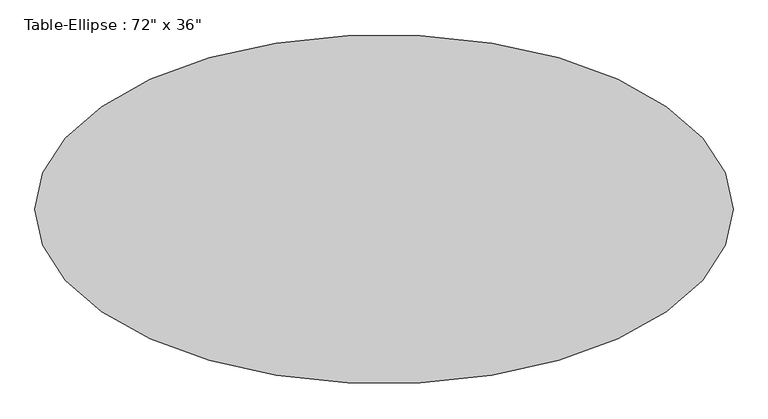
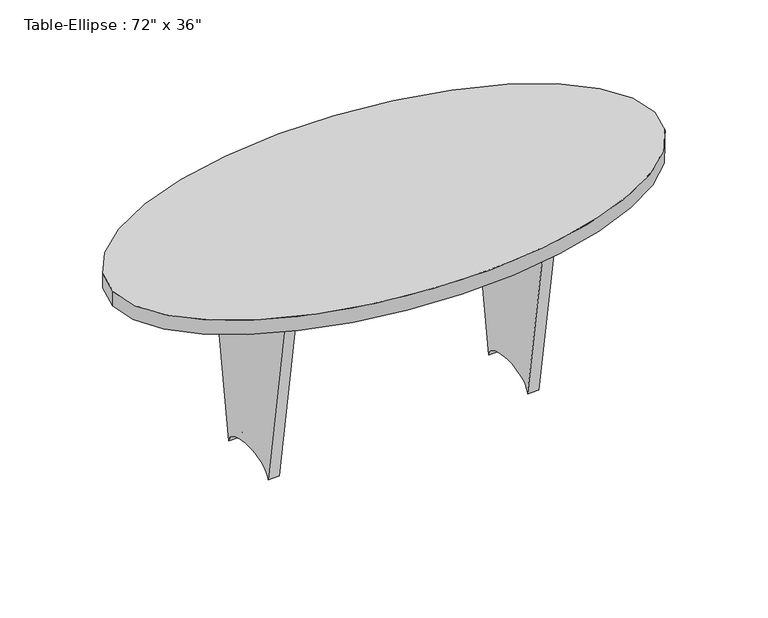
"""IFC4 building model written with IfcOpenShell, lengths in millimetres: furniture geometry."""

import ifcopenshell
import ifcopenshell.guid

model = None  # the IFC model being written
_history = None  # IfcOwnerHistory: only IFC2X3 demands one
_inside = {}  # id of a spatial element -> (the spatial element, [elements in it])
_under = {}  # id of a project, library or spatial element -> (it, [spatial elements below it])
_declared = {}  # id of a project -> (the project, [libraries it declares])
_typed = {}  # id of a type object -> (the type object, [elements of that type])
_made_of = {}  # id of a material, layer set ... -> (it, [elements and type objects made of it])


def new_model(schema):
    """Start an empty IFC model of exactly this schema.

    Asked for "IFC4X3", IfcOpenShell would pick the latest addendum, in which some entities
    have other attributes; the version numbers below select the first issue.
    IFC2X3 requires an IfcOwnerHistory on every rooted entity: one is made here for all.
    """
    global model, _history
    if schema == "IFC4X3":
        model = ifcopenshell.file(schema_version=(4, 3, 0, 0))
    else:
        model = ifcopenshell.file(schema=schema)
    _inside.clear()
    _under.clear()
    _declared.clear()
    _typed.clear()
    _made_of.clear()
    _history = None
    if model.schema == "IFC2X3":
        org = make("IfcOrganization", Name="unknown")
        user = make(
            "IfcPersonAndOrganization",
            ThePerson=make("IfcPerson", FamilyName="unknown"),
            TheOrganization=org,
        )
        app = make(
            "IfcApplication",
            ApplicationDeveloper=org,
            Version="unknown",
            ApplicationFullName="unknown",
            ApplicationIdentifier="unknown",
        )
        _history = make(
            "IfcOwnerHistory",
            OwningUser=user,
            OwningApplication=app,
            ChangeAction="ADDED",
            CreationDate=0,
        )
    return model


def make(cls, **values):
    """One entity of the class cls with the attributes given. An attribute that is None is left unset."""
    return model.create_entity(
        cls, **{name: value for name, value in values.items() if value is not None}
    )


def rooted(cls, **values):
    """An entity with a GlobalId (a new one), such as an element, a storey or a relation."""
    return make(cls, GlobalId=ifcopenshell.guid.new(), OwnerHistory=_history, **values)


def si_unit(unit_type, name, prefix=None):
    """IfcSIUnit, for example si_unit("LENGTHUNIT", "METRE", prefix="MILLI")."""
    return make("IfcSIUnit", UnitType=unit_type, Prefix=prefix, Name=name)


def assignment(units):
    """IfcUnitAssignment: the units of a project."""
    return None if units is None else make("IfcUnitAssignment", Units=units)


def point(xyz):
    """IfcCartesianPoint."""
    return None if xyz is None else make("IfcCartesianPoint", Coordinates=xyz)


def direction(xyz):
    """IfcDirection."""
    return None if xyz is None else make("IfcDirection", DirectionRatios=xyz)


def frame(location, z_axis=None, x_axis=None):
    """IfcAxis2Placement3D, a coordinate frame: its origin and axes. An axis left out is left unset."""
    return make(
        "IfcAxis2Placement3D",
        Location=point(location),
        Axis=direction(z_axis),
        RefDirection=direction(x_axis),
    )


def origin():
    """The frame at (0, 0, 0) with its axes left unset."""
    return frame((0.0, 0.0, 0.0))


def place(relative_to, where):
    """IfcLocalPlacement: puts the frame where relative to a parent placement (None: the world)."""
    return make(
        "IfcLocalPlacement", PlacementRelTo=relative_to, RelativePlacement=where
    )


def context(
    kind, dimensions, precision=None, world=None, true_north=None, identifier=None
):
    """IfcGeometricRepresentationContext, for example the 3D "Model" context."""
    return make(
        "IfcGeometricRepresentationContext",
        ContextIdentifier=identifier,
        ContextType=kind,
        CoordinateSpaceDimension=dimensions,
        Precision=precision,
        WorldCoordinateSystem=world,
        TrueNorth=true_north,
    )


def project(units=None, contexts=None):
    """IfcProject with its units and contexts."""
    return rooted(
        "IfcProject",
        Name="project",
        RepresentationContexts=contexts,
        UnitsInContext=assignment(units),
    )


def spatial(cls, under=None, at=None, **own):
    """A site, building, storey or space (cls), placed at a placement, below another one or the project."""
    s = rooted(cls, ObjectPlacement=at, **own)
    if under is not None:
        _under.setdefault(under.id(), (under, []))[1].append(s)
    return s


def ellipse_curve(where, semi_axis1, semi_axis2):
    """IfcEllipse in the frame where."""
    return make(
        "IfcEllipse", Position=where, SemiAxis1=semi_axis1, SemiAxis2=semi_axis2
    )


def trimmed(basis, trim1, trim2, sense, master):
    """IfcTrimmedCurve: the piece of a basis curve between two trims."""
    return make(
        "IfcTrimmedCurve",
        BasisCurve=basis,
        Trim1=trim1,
        Trim2=trim2,
        SenseAgreement=sense,
        MasterRepresentation=master,
    )


def shape(context_of_items, identifier, shape_type, items):
    """IfcShapeRepresentation: the items that make up one representation, for example the "Body"."""
    return make(
        "IfcShapeRepresentation",
        ContextOfItems=context_of_items,
        RepresentationIdentifier=identifier,
        RepresentationType=shape_type,
        Items=items,
    )


def source(mapping_origin, context_of_items, identifier, shape_type, items):
    """IfcRepresentationMap: a shape defined once, which mapped items show again and again."""
    return make(
        "IfcRepresentationMap",
        MappingOrigin=mapping_origin,
        MappedRepresentation=shape(context_of_items, identifier, shape_type, items),
    )


def transform(
    local_origin,
    x_axis=None,
    y_axis=None,
    z_axis=None,
    scale=None,
    scale2=None,
    scale3=None,
    uniform=True,
):
    """IfcCartesianTransformationOperator3D, or its non-uniform kind. x_axis, y_axis, z_axis: its Axis1, 2, 3."""
    if uniform:
        return make(
            "IfcCartesianTransformationOperator3D",
            Axis1=direction(x_axis),
            Axis2=direction(y_axis),
            LocalOrigin=point(local_origin),
            Scale=scale,
            Axis3=direction(z_axis),
        )
    return make(
        "IfcCartesianTransformationOperator3DnonUniform",
        Axis1=direction(x_axis),
        Axis2=direction(y_axis),
        LocalOrigin=point(local_origin),
        Scale=scale,
        Axis3=direction(z_axis),
        Scale2=scale2,
        Scale3=scale3,
    )


def mapped(mapping_source, mapping_target):
    """IfcMappedItem: shows the shape of a source again, moved by a transform."""
    return make(
        "IfcMappedItem", MappingSource=mapping_source, MappingTarget=mapping_target
    )


def made_of(thing, what):
    """Note that an element or type object is made of a material, layer set ...; save() writes the relation."""
    if what is not None:
        _made_of.setdefault(what.id(), (what, []))[1].append(thing)
    return thing


def element(
    cls,
    number,
    at=None,
    inside=None,
    cuts=None,
    type_object=None,
    material=None,
    context=None,
    identifier="Body",
    shape_type=None,
    held_by="IfcProductDefinitionShape",
    body=None,
    shapes=None,
    **own,
):
    """One element of the class cls, such as IfcWall. Its Tag is "e" and its number.

    at: its placement. inside: the storey or other place that contains it. cuts: it is an
    opening in that element (IfcRelVoidsElement). A single representation is given by context,
    identifier, shape_type and body (its items); several are given by shapes. held_by: the class
    of the entity that holds the representations. save() writes the other relations.
    """
    e = rooted(cls, Tag="e%d" % number, ObjectPlacement=at, **own)
    if body is not None:
        shapes = [shape(context, identifier, shape_type, body)]
    if shapes is not None:
        e.Representation = make(held_by, Representations=shapes)
    if inside is not None:
        _inside.setdefault(inside.id(), (inside, []))[1].append(e)
    if cuts is not None:
        rooted(
            "IfcRelVoidsElement", RelatingBuildingElement=cuts, RelatedOpeningElement=e
        )
    if type_object is not None:
        _typed.setdefault(type_object.id(), (type_object, []))[1].append(e)
    return made_of(e, material)


def aggregate(whole, parts):
    """IfcRelAggregates: a whole, such as a stair, and the parts it consists of."""
    return rooted("IfcRelAggregates", RelatingObject=whole, RelatedObjects=parts)


def save(model, path):
    """Write the relations noted so far, then the file.

    IfcRelAggregates (storeys below a building ...), IfcRelContainedInSpatialStructure (elements
    in a storey), IfcRelDefinesByType, IfcRelAssociatesMaterial and IfcRelDeclares: one each for
    every whole, place, type object, material and project.
    """
    for whole, parts in _under.values():
        aggregate(whole, parts)
    for where, things in _inside.values():
        rooted(
            "IfcRelContainedInSpatialStructure",
            RelatedElements=things,
            RelatingStructure=where,
        )
    for kind, things in _typed.values():
        rooted("IfcRelDefinesByType", RelatedObjects=things, RelatingType=kind)
    for what, things in _made_of.values():
        rooted("IfcRelAssociatesMaterial", RelatedObjects=things, RelatingMaterial=what)
    for by, libraries in _declared.values():
        rooted("IfcRelDeclares", RelatingContext=by, RelatedDefinitions=libraries)
    model.write(path)


def plane_surface(at):
    """IfcPlane: the flat surface through the origin of the frame at, square to its z axis."""
    return make("IfcPlane", Position=at)


def extruded_surface(curve, direction_of_extrusion, depth):
    """IfcSurfaceOfLinearExtrusion: the curve pushed along a direction by depth."""
    return make(
        "IfcSurfaceOfLinearExtrusion",
        SweptCurve=make("IfcArbitraryOpenProfileDef", ProfileType="CURVE", Curve=curve),
        ExtrudedDirection=direction(direction_of_extrusion),
        Depth=depth,
    )


def advanced_brep(points, edges, surfaces, faces):
    """IfcAdvancedBrep: a solid bounded by faces that lie on surfaces and meet in shared edges.

    An edge is (start, end): straight between two places in points (the first is 0);
    or (start, end, curve); or (start, end, curve, False) where it runs against its curve.
    A face is (place in surfaces, loops), or (place, loops, False) where it looks against
    its surface's normal. A loop lists edges by number (the first is 1), with a minus sign
    where the edge is run from its end to its start. The first loop is the outer one.
    """
    corners = [point(p) for p in points]
    vertices = [make("IfcVertexPoint", VertexGeometry=c) for c in corners]
    made = []
    for start, end, *more in edges:
        made.append(
            make(
                "IfcEdgeCurve",
                EdgeStart=vertices[start],
                EdgeEnd=vertices[end],
                EdgeGeometry=more[0] if more else make("IfcPolyline", Points=[corners[start], corners[end]]),
                SameSense=more[1] if len(more) > 1 else True,
            )
        )
    hull = []
    for where, loops, *sense in faces:
        bounds = []
        for j, loop in enumerate(loops):
            ring = [make("IfcOrientedEdge", EdgeElement=made[abs(k) - 1], Orientation=k > 0) for k in loop]
            bounds.append(
                make(
                    "IfcFaceOuterBound" if j == 0 else "IfcFaceBound",
                    Bound=make("IfcEdgeLoop", EdgeList=ring),
                    Orientation=True,
                )
            )
        hull.append(make("IfcAdvancedFace", Bounds=bounds, FaceSurface=surfaces[where], SameSense=sense[0] if sense else True))
    return make("IfcAdvancedBrep", Outer=make("IfcClosedShell", CfsFaces=hull))


def furniture_fe1f7ef6(model_context):
    return source(origin(), model_context, "Body", "AdvancedBrep", [
        advanced_brep(
        [(-914.4, 0.0, 762.0), (914.4, 0.0, 762.0), (-914.4, 0.0, 711.2), (914.4, 0.0, 711.2)],
        [
            (0, 1, ellipse_curve(frame((0.0, 0.0, 762.0), z_axis=(0.0, 0.0, 1.0), x_axis=(1.0, 0.0, 0.0)), 914.4, 457.2)),
            (1, 0, ellipse_curve(frame((0.0, 0.0, 762.0), z_axis=(0.0, 0.0, 1.0), x_axis=(1.0, 0.0, 0.0)), 914.4, 457.2)),
            (2, 3, ellipse_curve(frame((0.0, 0.0, 711.2), z_axis=(0.0, 0.0, -1.0), x_axis=(1.0, 0.0, 0.0)), 914.4, 457.2)),
            (3, 2, ellipse_curve(frame((0.0, 0.0, 711.2), z_axis=(0.0, 0.0, -1.0), x_axis=(1.0, 0.0, 0.0)), 914.4, 457.2)),
            (0, 2),
            (3, 1),
        ],
        [
            plane_surface(frame((914.4, 0.0, 762.0), z_axis=(0.0, 0.0, 1.0), x_axis=(0.0, 1.0, 0.0))),
            plane_surface(frame((914.4, 0.0, 711.2), z_axis=(0.0, 0.0, -1.0), x_axis=(0.0, -1.0, 0.0))),
            extruded_surface(trimmed(ellipse_curve(frame((0.0, 0.0, 660.4), z_axis=(0.0, 0.0, 1.0), x_axis=(1.0, 0.0, 0.0)), 914.4, 457.2), [point((-914.4, 0.0, 660.4))], [point((914.4, 0.0, 660.4))], True, "CARTESIAN"), (0.0, 0.0, 50.80000000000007), 50.80000000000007),
            extruded_surface(trimmed(ellipse_curve(frame((0.0, 0.0, 660.4), z_axis=(0.0, 0.0, 1.0), x_axis=(1.0, 0.0, 0.0)), 914.4, 457.2), [point((914.4, 0.0, 660.4))], [point((-914.4, 0.0, 660.4))], True, "CARTESIAN"), (0.0, 0.0, 50.80000000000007), 50.80000000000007),
        ],
        [
            (0, [[1, 2]]),
            (1, [[3, 4]]),
            (2, [[-1, 5, -4, 6]]),
            (3, [[-2, -6, -3, -5]]),
        ],
    ),
        advanced_brep(
        [(-419.1, 19.05, 711.2), (419.1, 19.05, 711.2), (419.1, 19.05, 474.1333333), (-419.1, 19.05, 474.1333333), (-419.1, -19.05, 711.2), (-419.1, -19.05, 474.1333333), (419.1, -19.05, 474.1333333), (419.1, -19.05, 711.2)],
        [
            (0, 1),
            (1, 2),
            (2, 3, ellipse_curve(frame((0.0, 19.05, 474.1333333), z_axis=(0.0, -1.0, 0.0), x_axis=(1.0, 0.0, 0.0)), 419.1, 101.6)),
            (3, 0),
            (4, 5),
            (5, 6, ellipse_curve(frame((0.0, -19.05, 474.1333333), z_axis=(0.0, 1.0, 0.0), x_axis=(1.0, 0.0, 0.0)), 419.1, 101.6)),
            (6, 7),
            (7, 4),
            (0, 4),
            (7, 1),
            (6, 2),
            (5, 3),
        ],
        [
            plane_surface(frame((-419.1, 19.05, 711.2), z_axis=(0.0, 1.0, 0.0), x_axis=(1.0, 0.0, 0.0))),
            plane_surface(frame((-419.1, -19.05, 711.2), z_axis=(0.0, -1.0, 0.0), x_axis=(-1.0, 0.0, 0.0))),
            plane_surface(frame((-419.1, 19.05, 711.2), z_axis=(0.0, 0.0, 1.0), x_axis=(0.0, -1.0, 0.0))),
            plane_surface(frame((419.1, 19.05, 711.2), z_axis=(1.0, 0.0, 0.0), x_axis=(0.0, -1.0, 0.0))),
            extruded_surface(trimmed(ellipse_curve(frame((0.0, -57.15, 474.1333333), z_axis=(0.0, -1.0, 0.0), x_axis=(1.0, 0.0, 0.0)), 419.1, 101.6), [point((419.1, -57.15, 474.1333333))], [point((-419.1, -57.15, 474.1333333))], True, "CARTESIAN"), (0.0, 38.099999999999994, 0.0), 38.099999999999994),
            plane_surface(frame((-419.1, 19.05, 474.1333333), z_axis=(-1.0, 0.0, 0.0), x_axis=(0.0, -1.0, 0.0))),
        ],
        [
            (0, [[1, 2, 3, 4]]),
            (1, [[5, 6, 7, 8]]),
            (2, [[-1, 9, -8, 10]]),
            (3, [[-2, -10, -7, 11]]),
            (4, [[-3, -11, -6, 12]]),
            (5, [[-4, -12, -5, -9]]),
        ],
    ),
        advanced_brep(
        [(457.2, 228.6, 711.2), (457.2, -228.6, 711.2), (457.2, -114.3, 0.0), (457.2, 114.3, 0.0), (419.1, 228.6, 711.2), (419.1, 114.3, 0.0), (419.1, -114.3, 0.0), (419.1, -228.6, 711.2)],
        [
            (0, 1),
            (1, 2),
            (2, 3, ellipse_curve(frame((457.2, 0.0, 0.0), z_axis=(-1.0, 0.0, 0.0), x_axis=(0.0, 1.0, 0.0)), 114.3, 50.8)),
            (3, 0),
            (4, 5),
            (5, 6, ellipse_curve(frame((419.1, 0.0, 0.0), z_axis=(1.0, 0.0, 0.0), x_axis=(0.0, 1.0, 0.0)), 114.3, 50.8)),
            (6, 7),
            (7, 4),
            (0, 4),
            (7, 1),
            (6, 2),
            (5, 3),
        ],
        [
            plane_surface(frame((457.2, -228.6, 711.2), z_axis=(1.0, 0.0, 0.0), x_axis=(0.0, -1.0, 0.0))),
            plane_surface(frame((419.1, -228.6, 711.2), z_axis=(-1.0, 0.0, 0.0), x_axis=(0.0, 1.0, 0.0))),
            plane_surface(frame((457.2, 228.6, 711.2), z_axis=(0.0, 0.0, 1.0), x_axis=(-1.0, 0.0, 0.0))),
            plane_surface(frame((457.2, -228.6, 711.2), z_axis=(0.0, -0.9873303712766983, -0.158678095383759), x_axis=(-1.0, 0.0, 0.0))),
            extruded_surface(trimmed(ellipse_curve(frame((381.0, 0.0, 0.0), z_axis=(-1.0, 0.0, 0.0), x_axis=(0.0, 1.0, 0.0)), 114.3, 50.8), [point((381.0, -114.3, 0.0))], [point((381.0, 114.3, 0.0))], True, "CARTESIAN"), (38.10000000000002, 0.0, 0.0), 38.10000000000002),
            plane_surface(frame((457.2, 114.3, 0.0), z_axis=(0.0, 0.9873303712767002, -0.15867809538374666), x_axis=(-1.0, 0.0, 0.0))),
        ],
        [
            (0, [[1, 2, 3, 4]]),
            (1, [[5, 6, 7, 8]]),
            (2, [[-1, 9, -8, 10]]),
            (3, [[-2, -10, -7, 11]]),
            (4, [[-3, -11, -6, 12]]),
            (5, [[-4, -12, -5, -9]]),
        ],
    ),
        advanced_brep(
        [(-419.1, 228.6, 711.2), (-419.1, -228.6, 711.2), (-419.1, -114.3, 0.0), (-419.1, 114.3, 0.0), (-457.2, 228.6, 711.2), (-457.2, 114.3, 0.0), (-457.2, -114.3, 0.0), (-457.2, -228.6, 711.2)],
        [
            (0, 1),
            (1, 2),
            (2, 3, ellipse_curve(frame((-419.1, 0.0, 0.0), z_axis=(-1.0, 0.0, 0.0), x_axis=(0.0, 1.0, 0.0)), 114.3, 50.8)),
            (3, 0),
            (4, 5),
            (5, 6, ellipse_curve(frame((-457.2, 0.0, 0.0), z_axis=(1.0, 0.0, 0.0), x_axis=(0.0, 1.0, 0.0)), 114.3, 50.8)),
            (6, 7),
            (7, 4),
            (0, 4),
            (7, 1),
            (6, 2),
            (5, 3),
        ],
        [
            plane_surface(frame((-419.1, -228.6, 711.2), z_axis=(1.0, 0.0, 0.0), x_axis=(0.0, -1.0, 0.0))),
            plane_surface(frame((-457.2, -228.6, 711.2), z_axis=(-1.0, 0.0, 0.0), x_axis=(0.0, 1.0, 0.0))),
            plane_surface(frame((-419.1, 228.6, 711.2), z_axis=(0.0, 0.0, 1.0), x_axis=(-1.0, 0.0, 0.0))),
            plane_surface(frame((-419.1, -228.6, 711.2), z_axis=(0.0, -0.9873303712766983, -0.15867809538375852), x_axis=(-1.0, 0.0, 0.0))),
            extruded_surface(trimmed(ellipse_curve(frame((-495.3, 0.0, 0.0), z_axis=(-1.0, 0.0, 0.0), x_axis=(0.0, 1.0, 0.0)), 114.3, 50.8), [point((-495.3, -114.3, 0.0))], [point((-495.3, 114.3, 0.0))], True, "CARTESIAN"), (38.10000000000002, 0.0, 0.0), 38.10000000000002),
            plane_surface(frame((-419.1, 114.3, 0.0), z_axis=(0.0, 0.9873303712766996, -0.15867809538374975), x_axis=(-1.0, 0.0, 0.0))),
        ],
        [
            (0, [[1, 2, 3, 4]]),
            (1, [[5, 6, 7, 8]]),
            (2, [[-1, 9, -8, 10]]),
            (3, [[-2, -10, -7, 11]]),
            (4, [[-3, -11, -6, 12]]),
            (5, [[-4, -12, -5, -9]]),
        ],
    ),
    ])


if __name__ == "__main__":
    model = new_model("IFC4")
    model_context = context("Model", 3, world=origin())
    ifc_project = project(units=[si_unit("LENGTHUNIT", "METRE", prefix="MILLI")], contexts=[model_context])
    site = spatial("IfcSite", under=ifc_project)
    building = spatial("IfcBuilding", under=site)
    placement = place(None, origin())
    furniture_shape = furniture_fe1f7ef6(model_context)
    element("IfcFurniture", 1, ObjectType="Table-Ellipse : 72\" x 36\"", at=placement, inside=building, context=model_context, shape_type="MappedRepresentation", body=[
        mapped(furniture_shape, transform((0.0, 0.0, 0.0), x_axis=(1.0, 0.0, 0.0), y_axis=(0.0, 1.0, 0.0), z_axis=(0.0, 0.0, 1.0))),
    ])
    save(model, "model.ifc")
